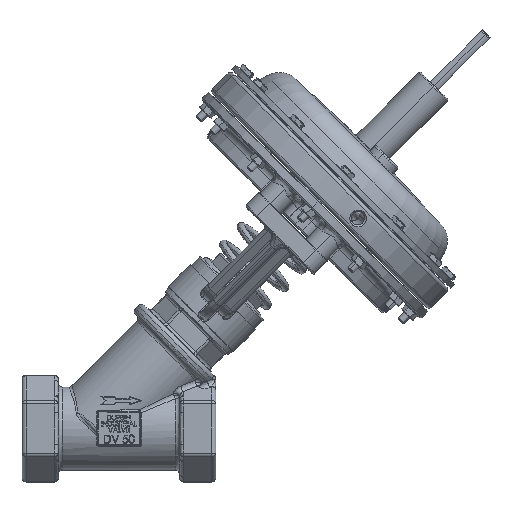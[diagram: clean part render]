
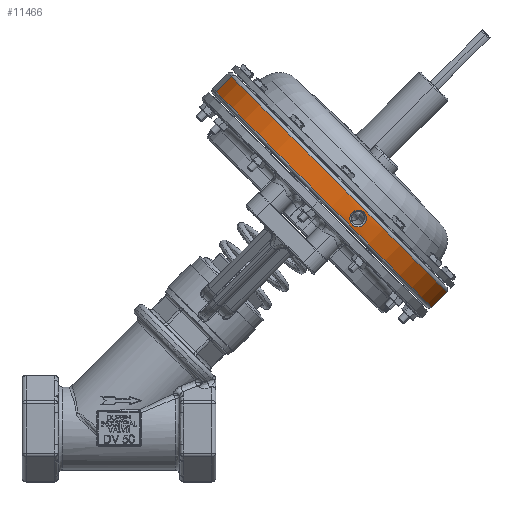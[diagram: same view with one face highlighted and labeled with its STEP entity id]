
A CAD part, top view. The second image highlights one B-rep face of the part: STEP entity #11466.
In plain terms, the highlighted cylindrical face has radius 120.904 mm (diameter 241.808 mm), a partial arc.
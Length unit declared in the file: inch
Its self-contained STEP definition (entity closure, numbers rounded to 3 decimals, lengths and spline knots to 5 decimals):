
#11466 = ADVANCED_FACE ( 'NONE', ( #137173, #137171 ), #137181, .T. ) ;
#22387 = B_SPLINE_CURVE_WITH_KNOTS ( 'NONE', 3,
 ( #96923, #96925, #96934, #96935, #96937, #96939, #96941, #96943, #96945, #96947, #96948, #96950, #96952, #96954, #96956, #96958, #96960, #96961 ),
 .UNSPECIFIED., .F., .F.,
 ( 4, 2, 2, 2, 2, 2, 2, 2, 4 ),
 ( 0.5, 0.5625, 0.625, 0.6875, 0.75, 0.8125, 0.875, 0.9375, 1. ),
 .UNSPECIFIED. ) ;
#22413 = B_SPLINE_CURVE_WITH_KNOTS ( 'NONE', 3,
 ( #39850, #39853, #39911, #39913, #39915, #39917, #39919, #39921, #39923, #39925, #39926, #39927, #39929, #39931, #39933, #39935, #39937, #39939 ),
 .UNSPECIFIED., .F., .F.,
 ( 4, 2, 2, 2, 2, 2, 2, 2, 4 ),
 ( 0., 0.0625, 0.125, 0.1875, 0.25, 0.3125, 0.375, 0.4375, 0.5 ),
 .UNSPECIFIED. ) ;
#25060 = ORIENTED_EDGE ( 'NONE', *, *, #104815, .T. ) ;
#25456 = ORIENTED_EDGE ( 'NONE', *, *, #130151, .T. ) ;
#25735 = ORIENTED_EDGE ( 'NONE', *, *, #105380, .T. ) ;
#25806 = ORIENTED_EDGE ( 'NONE', *, *, #105388, .T. ) ;
#26210 = ORIENTED_EDGE ( 'NONE', *, *, #130131, .T. ) ;
#26418 = ORIENTED_EDGE ( 'NONE', *, *, #130253, .F. ) ;
#31138 = CIRCLE ( 'NONE', #117423, 4.76 ) ;
#31141 = CIRCLE ( 'NONE', #117432, 4.76 ) ;
#35102 = VERTEX_POINT ( 'NONE', #73669 ) ;
#35348 = VERTEX_POINT ( 'NONE', #73770 ) ;
#35503 = VERTEX_POINT ( 'NONE', #73825 ) ;
#38207 = CARTESIAN_POINT ( 'NONE',  ( 0., 0., 0. ) ) ;
#38268 = DIRECTION ( 'NONE',  ( 0., 0., -1. ) ) ;
#38271 = DIRECTION ( 'NONE',  ( 1., 0., 0. ) ) ;
#39850 = CARTESIAN_POINT ( 'NONE',  ( 0.5, 4.75286, -0.26062 ) ) ;
#39853 = CARTESIAN_POINT ( 'NONE',  ( 0.53383, 4.75286, -0.26063 ) ) ;
#39911 = CARTESIAN_POINT ( 'NONE',  ( 0.5667, 4.75324, -0.25396 ) ) ;
#39913 = CARTESIAN_POINT ( 'NONE',  ( 0.63057, 4.75459, -0.22729 ) ) ;
#39915 = CARTESIAN_POINT ( 'NONE',  ( 0.65849, 4.75549, -0.20855 ) ) ;
#39917 = CARTESIAN_POINT ( 'NONE',  ( 0.70632, 4.75736, -0.16025 ) ) ;
#39919 = CARTESIAN_POINT ( 'NONE',  ( 0.72491, 4.75828, -0.13207 ) ) ;
#39921 = CARTESIAN_POINT ( 'NONE',  ( 0.75145, 4.75963, -0.06752 ) ) ;
#39923 = CARTESIAN_POINT ( 'NONE',  ( 0.7581, 4.76, -0.03426 ) ) ;
#39925 = CARTESIAN_POINT ( 'NONE',  ( 0.75815, 4.76, 0.03403 ) ) ;
#39926 = CARTESIAN_POINT ( 'NONE',  ( 0.7515, 4.75963, 0.06733 ) ) ;
#39927 = CARTESIAN_POINT ( 'NONE',  ( 0.72507, 4.75828, 0.1318 ) ) ;
#39929 = CARTESIAN_POINT ( 'NONE',  ( 0.70649, 4.75737, 0.16003 ) ) ;
#39931 = CARTESIAN_POINT ( 'NONE',  ( 0.65872, 4.7555, 0.20837 ) ) ;
#39933 = CARTESIAN_POINT ( 'NONE',  ( 0.63085, 4.7546, 0.22713 ) ) ;
#39935 = CARTESIAN_POINT ( 'NONE',  ( 0.56703, 4.75324, 0.25391 ) ) ;
#39937 = CARTESIAN_POINT ( 'NONE',  ( 0.53412, 4.75286, 0.26061 ) ) ;
#39939 = CARTESIAN_POINT ( 'NONE',  ( 0.50028, 4.75286, 0.26062 ) ) ;
#41194 = CARTESIAN_POINT ( 'NONE',  ( 0.17, 0., 0. ) ) ;
#41195 = DIRECTION ( 'NONE',  ( 1., 0., 0. ) ) ;
#41196 = DIRECTION ( 'NONE',  ( 0., 0., 1. ) ) ;
#41206 = CARTESIAN_POINT ( 'NONE',  ( 0.83, 0., 0. ) ) ;
#41207 = DIRECTION ( 'NONE',  ( -1., 0., 0. ) ) ;
#41208 = DIRECTION ( 'NONE',  ( 0., 0., -1. ) ) ;
#43540 = VERTEX_POINT ( 'NONE', #75493 ) ;
#43758 = VERTEX_POINT ( 'NONE', #75601 ) ;
#44143 = VERTEX_POINT ( 'NONE', #75788 ) ;
#73669 = CARTESIAN_POINT ( 'NONE',  ( 0.83, 0., 4.76 ) ) ;
#73770 = CARTESIAN_POINT ( 'NONE',  ( 0.5, 4.75286, -0.26062 ) ) ;
#73825 = CARTESIAN_POINT ( 'NONE',  ( 0.83, 0., -4.76 ) ) ;
#75493 = CARTESIAN_POINT ( 'NONE',  ( 0.50028, 4.75286, 0.26062 ) ) ;
#75601 = CARTESIAN_POINT ( 'NONE',  ( 0.17, 0., -4.76 ) ) ;
#75788 = CARTESIAN_POINT ( 'NONE',  ( 0.17, 0., 4.76 ) ) ;
#85819 = LINE ( 'NONE', #96980, #85823 ) ;
#85823 = VECTOR ( 'NONE', #96981, 39.37008 ) ;
#85856 = LINE ( 'NONE', #97168, #85857 ) ;
#85857 = VECTOR ( 'NONE', #97171, 39.37008 ) ;
#96923 = CARTESIAN_POINT ( 'NONE',  ( 0.50028, 4.75286, 0.26062 ) ) ;
#96925 = CARTESIAN_POINT ( 'NONE',  ( 0.46644, 4.75286, 0.26063 ) ) ;
#96934 = CARTESIAN_POINT ( 'NONE',  ( 0.4334, 4.75324, 0.2539 ) ) ;
#96935 = CARTESIAN_POINT ( 'NONE',  ( 0.36929, 4.7546, 0.22711 ) ) ;
#96937 = CARTESIAN_POINT ( 'NONE',  ( 0.34129, 4.7555, 0.20833 ) ) ;
#96939 = CARTESIAN_POINT ( 'NONE',  ( 0.29351, 4.75737, 0.16008 ) ) ;
#96941 = CARTESIAN_POINT ( 'NONE',  ( 0.27495, 4.75828, 0.13191 ) ) ;
#96943 = CARTESIAN_POINT ( 'NONE',  ( 0.24847, 4.75963, 0.0674 ) ) ;
#96945 = CARTESIAN_POINT ( 'NONE',  ( 0.24186, 4.76, 0.0342 ) ) ;
#96947 = CARTESIAN_POINT ( 'NONE',  ( 0.24189, 4.76, -0.03411 ) ) ;
#96948 = CARTESIAN_POINT ( 'NONE',  ( 0.24852, 4.75963, -0.06733 ) ) ;
#96950 = CARTESIAN_POINT ( 'NONE',  ( 0.27498, 4.75828, -0.1319 ) ) ;
#96952 = CARTESIAN_POINT ( 'NONE',  ( 0.29358, 4.75737, -0.16014 ) ) ;
#96954 = CARTESIAN_POINT ( 'NONE',  ( 0.34139, 4.7555, -0.20844 ) ) ;
#96956 = CARTESIAN_POINT ( 'NONE',  ( 0.36936, 4.75459, -0.2272 ) ) ;
#96958 = CARTESIAN_POINT ( 'NONE',  ( 0.4333, 4.75324, -0.25393 ) ) ;
#96960 = CARTESIAN_POINT ( 'NONE',  ( 0.46619, 4.75286, -0.26061 ) ) ;
#96961 = CARTESIAN_POINT ( 'NONE',  ( 0.5, 4.75286, -0.26062 ) ) ;
#96980 = CARTESIAN_POINT ( 'NONE',  ( 0., 0., 4.76 ) ) ;
#96981 = DIRECTION ( 'NONE',  ( 1., 0., 0. ) ) ;
#97168 = CARTESIAN_POINT ( 'NONE',  ( 0., 0., -4.76 ) ) ;
#97171 = DIRECTION ( 'NONE',  ( 1., 0., 0. ) ) ;
#104815 = EDGE_CURVE ( 'NONE', #35348, #43540, #22413, .T. ) ;
#105380 = EDGE_CURVE ( 'NONE', #43758, #44143, #31138, .T. ) ;
#105388 = EDGE_CURVE ( 'NONE', #35102, #35503, #31141, .T. ) ;
#105868 = EDGE_LOOP ( 'NONE', ( #25735, #25456, #25806, #26418 ) ) ;
#106386 = EDGE_LOOP ( 'NONE', ( #25060, #26210 ) ) ;
#117423 = AXIS2_PLACEMENT_3D ( 'NONE', #41194, #41195, #41196 ) ;
#117432 = AXIS2_PLACEMENT_3D ( 'NONE', #41206, #41207, #41208 ) ;
#130131 = EDGE_CURVE ( 'NONE', #43540, #35348, #22387, .T. ) ;
#130151 = EDGE_CURVE ( 'NONE', #44143, #35102, #85819, .T. ) ;
#130253 = EDGE_CURVE ( 'NONE', #43758, #35503, #85856, .T. ) ;
#134841 = AXIS2_PLACEMENT_3D ( 'NONE', #38207, #38271, #38268 ) ;
#137171 = FACE_OUTER_BOUND ( 'NONE', #105868, .T. ) ;
#137173 = FACE_BOUND ( 'NONE', #106386, .T. ) ;
#137181 = CYLINDRICAL_SURFACE ( 'NONE', #134841, 4.76 ) ;
